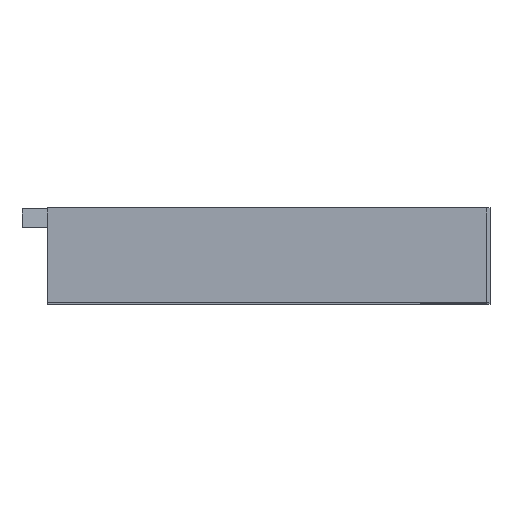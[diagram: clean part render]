
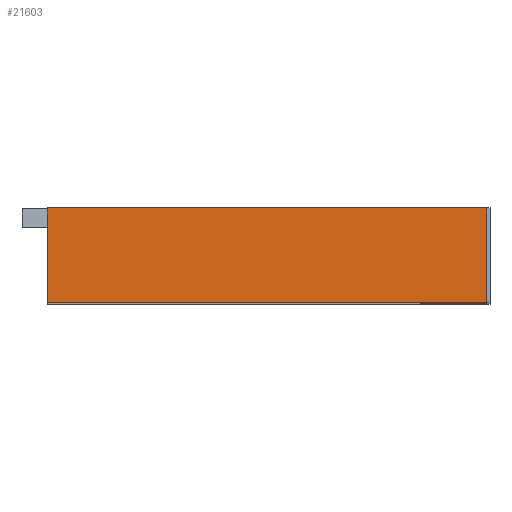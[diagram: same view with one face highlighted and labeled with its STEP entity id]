
A CAD part, top view. The second image highlights one B-rep face of the part: STEP entity #21603.
In plain terms, the highlighted planar face has unit normal (0, 0, 1).
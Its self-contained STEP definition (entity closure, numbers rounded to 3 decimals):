
#22 = VERTEX_POINT('',#23);
#23 = CARTESIAN_POINT('',(0.2,430.05,200.));
#32 = PLANE('',#33);
#33 = AXIS2_PLACEMENT_3D('',#34,#35,#36);
#34 = CARTESIAN_POINT('',(0.2,428.45,0.));
#35 = DIRECTION('',(1.,0.,0.));
#36 = DIRECTION('',(0.,0.,1.));
#44 = PLANE('',#45);
#45 = AXIS2_PLACEMENT_3D('',#46,#47,#48);
#46 = CARTESIAN_POINT('',(0.2,430.05,0.));
#47 = DIRECTION('',(0.,1.,0.));
#48 = DIRECTION('',(0.,0.,1.));
#56 = EDGE_CURVE('',#57,#22,#59,.T.);
#57 = VERTEX_POINT('',#58);
#58 = CARTESIAN_POINT('',(0.2,400.05,200.));
#59 = SURFACE_CURVE('',#60,(#64,#71),.PCURVE_S1.);
#60 = LINE('',#61,#62);
#61 = CARTESIAN_POINT('',(0.2,400.05,200.));
#62 = VECTOR('',#63,1.);
#63 = DIRECTION('',(0.,1.,0.));
#64 = PCURVE('',#32,#65);
#65 = DEFINITIONAL_REPRESENTATION('',(#66),#70);
#66 = LINE('',#67,#68);
#67 = CARTESIAN_POINT('',(200.,28.4));
#68 = VECTOR('',#69,1.);
#69 = DIRECTION('',(0.,-1.));
#70 = ( GEOMETRIC_REPRESENTATION_CONTEXT(2) 
PARAMETRIC_REPRESENTATION_CONTEXT() REPRESENTATION_CONTEXT('2D SPACE',''
  ) );
#71 = PCURVE('',#72,#77);
#72 = PLANE('',#73);
#73 = AXIS2_PLACEMENT_3D('',#74,#75,#76);
#74 = CARTESIAN_POINT('',(0.2,428.45,200.));
#75 = DIRECTION('',(0.,0.,1.));
#76 = DIRECTION('',(1.,0.,0.));
#77 = DEFINITIONAL_REPRESENTATION('',(#78),#82);
#78 = LINE('',#79,#80);
#79 = CARTESIAN_POINT('',(0.,-28.4));
#80 = VECTOR('',#81,1.);
#81 = DIRECTION('',(0.,1.));
#82 = ( GEOMETRIC_REPRESENTATION_CONTEXT(2) 
PARAMETRIC_REPRESENTATION_CONTEXT() REPRESENTATION_CONTEXT('2D SPACE',''
  ) );
#100 = PLANE('',#101);
#101 = AXIS2_PLACEMENT_3D('',#102,#103,#104);
#102 = CARTESIAN_POINT('',(0.2,400.05,198.));
#103 = DIRECTION('',(0.,1.,0.));
#104 = DIRECTION('',(0.,0.,1.));
#196 = EDGE_CURVE('',#22,#197,#199,.T.);
#197 = VERTEX_POINT('',#198);
#198 = CARTESIAN_POINT('',(139.,430.05,200.));
#199 = SURFACE_CURVE('',#200,(#204,#211),.PCURVE_S1.);
#200 = LINE('',#201,#202);
#201 = CARTESIAN_POINT('',(0.2,430.05,200.));
#202 = VECTOR('',#203,1.);
#203 = DIRECTION('',(1.,0.,0.));
#204 = PCURVE('',#44,#205);
#205 = DEFINITIONAL_REPRESENTATION('',(#206),#210);
#206 = LINE('',#207,#208);
#207 = CARTESIAN_POINT('',(200.,0.));
#208 = VECTOR('',#209,1.);
#209 = DIRECTION('',(0.,1.));
#210 = ( GEOMETRIC_REPRESENTATION_CONTEXT(2) 
PARAMETRIC_REPRESENTATION_CONTEXT() REPRESENTATION_CONTEXT('2D SPACE',''
  ) );
#211 = PCURVE('',#72,#212);
#212 = DEFINITIONAL_REPRESENTATION('',(#213),#217);
#213 = LINE('',#214,#215);
#214 = CARTESIAN_POINT('',(0.,1.6));
#215 = VECTOR('',#216,1.);
#216 = DIRECTION('',(1.,0.));
#217 = ( GEOMETRIC_REPRESENTATION_CONTEXT(2) 
PARAMETRIC_REPRESENTATION_CONTEXT() REPRESENTATION_CONTEXT('2D SPACE',''
  ) );
#234 = PLANE('',#235);
#235 = AXIS2_PLACEMENT_3D('',#236,#237,#238);
#236 = CARTESIAN_POINT('',(138.,399.05,201.));
#237 = DIRECTION('',(-0.707,-0.,-0.707));
#238 = DIRECTION('',(0.707,0.,-0.707));
#21102 = EDGE_CURVE('',#57,#21103,#21105,.T.);
#21103 = VERTEX_POINT('',#21104);
#21104 = CARTESIAN_POINT('',(139.,400.05,200.));
#21105 = SURFACE_CURVE('',#21106,(#21110,#21117),.PCURVE_S1.);
#21106 = LINE('',#21107,#21108);
#21107 = CARTESIAN_POINT('',(0.2,400.05,200.));
#21108 = VECTOR('',#21109,1.);
#21109 = DIRECTION('',(1.,0.,0.));
#21110 = PCURVE('',#100,#21111);
#21111 = DEFINITIONAL_REPRESENTATION('',(#21112),#21116);
#21112 = LINE('',#21113,#21114);
#21113 = CARTESIAN_POINT('',(2.,0.));
#21114 = VECTOR('',#21115,1.);
#21115 = DIRECTION('',(0.,1.));
#21116 = ( GEOMETRIC_REPRESENTATION_CONTEXT(2) 
PARAMETRIC_REPRESENTATION_CONTEXT() REPRESENTATION_CONTEXT('2D SPACE',''
  ) );
#21117 = PCURVE('',#72,#21118);
#21118 = DEFINITIONAL_REPRESENTATION('',(#21119),#21123);
#21119 = LINE('',#21120,#21121);
#21120 = CARTESIAN_POINT('',(0.,-28.4));
#21121 = VECTOR('',#21122,1.);
#21122 = DIRECTION('',(1.,0.));
#21123 = ( GEOMETRIC_REPRESENTATION_CONTEXT(2) 
PARAMETRIC_REPRESENTATION_CONTEXT() REPRESENTATION_CONTEXT('2D SPACE',''
  ) );
#21603 = ADVANCED_FACE('',(#21604),#72,.T.);
#21604 = FACE_BOUND('',#21605,.T.);
#21605 = EDGE_LOOP('',(#21606,#21607,#21608,#21627));
#21606 = ORIENTED_EDGE('',*,*,#56,.F.);
#21607 = ORIENTED_EDGE('',*,*,#21102,.T.);
#21608 = ORIENTED_EDGE('',*,*,#21609,.F.);
#21609 = EDGE_CURVE('',#197,#21103,#21610,.T.);
#21610 = SURFACE_CURVE('',#21611,(#21615,#21621),.PCURVE_S1.);
#21611 = LINE('',#21612,#21613);
#21612 = CARTESIAN_POINT('',(139.,413.75,200.));
#21613 = VECTOR('',#21614,1.);
#21614 = DIRECTION('',(0.,-1.,0.));
#21615 = PCURVE('',#72,#21616);
#21616 = DEFINITIONAL_REPRESENTATION('',(#21617),#21620);
#21617 = B_SPLINE_CURVE_WITH_KNOTS('',1,(#21618,#21619),.UNSPECIFIED.,
  .F.,.F.,(2,2),(-16.3,13.7),.PIECEWISE_BEZIER_KNOTS.);
#21618 = CARTESIAN_POINT('',(138.8,1.6));
#21619 = CARTESIAN_POINT('',(138.8,-28.4));
#21620 = ( GEOMETRIC_REPRESENTATION_CONTEXT(2) 
PARAMETRIC_REPRESENTATION_CONTEXT() REPRESENTATION_CONTEXT('2D SPACE',''
  ) );
#21621 = PCURVE('',#234,#21622);
#21622 = DEFINITIONAL_REPRESENTATION('',(#21623),#21626);
#21623 = B_SPLINE_CURVE_WITH_KNOTS('',1,(#21624,#21625),.UNSPECIFIED.,
  .F.,.F.,(2,2),(-16.3,13.7),.PIECEWISE_BEZIER_KNOTS.);
#21624 = CARTESIAN_POINT('',(1.414,-31.));
#21625 = CARTESIAN_POINT('',(1.414,-1.));
#21626 = ( GEOMETRIC_REPRESENTATION_CONTEXT(2) 
PARAMETRIC_REPRESENTATION_CONTEXT() REPRESENTATION_CONTEXT('2D SPACE',''
  ) );
#21627 = ORIENTED_EDGE('',*,*,#196,.F.);
